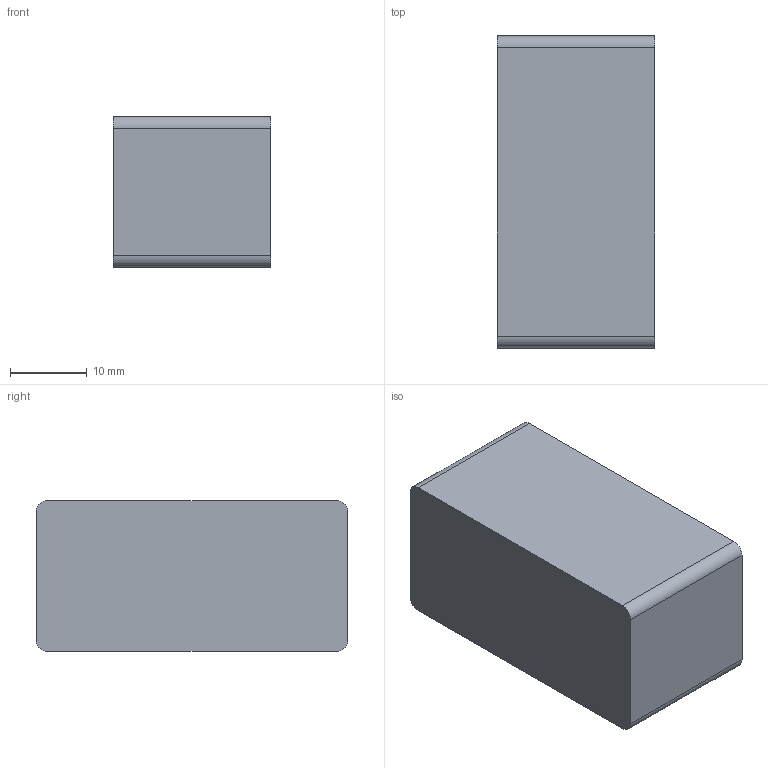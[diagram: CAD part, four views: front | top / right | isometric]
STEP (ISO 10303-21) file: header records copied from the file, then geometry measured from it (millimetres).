
FILE_DESCRIPTION(('Open CASCADE Model'),'2;1');
FILE_NAME('Open CASCADE Shape Model','2026-11-24T19:57:40',('Author'),( 'Open CASCADE'),'Open CASCADE STEP processor 7.8','Open CASCADE 7.8' ,'Unknown');
FILE_SCHEMA(('AUTOMOTIVE_DESIGN { 1 0 10303 214 1 1 1 1 }'));
Length unit declared in the file: millimetre
Products named in the file (1): Open CASCADE STEP translator 7.8 118
Bounding box: 20.5 x 40.6 x 19.6 mm (x, y, z)
Volume: 16273.5 mm3; surface area: 4003.1 mm2
Topology: 1 solids, 1 shells, 10 faces, 24 edges, 16 vertices
Faces by surface type: plane 6, cylinder 4
Entity records: 642 total; most frequent: CARTESIAN_POINT 147, DIRECTION 94, LINE 56, VECTOR 56, ORIENTED_EDGE 48, PCURVE 48, DEFINITIONAL_REPRESENTATION 48, EDGE_CURVE 24
